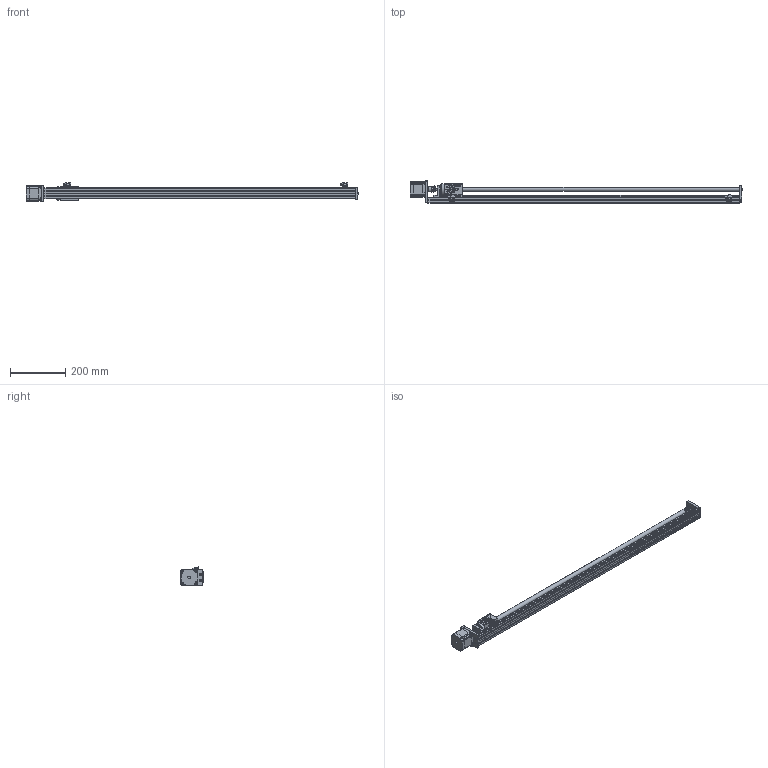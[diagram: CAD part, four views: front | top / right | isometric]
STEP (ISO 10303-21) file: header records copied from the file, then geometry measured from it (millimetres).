
FILE_DESCRIPTION (( 'STEP AP203' ), '1' );
FILE_NAME ('FSK40-C7L10-E1000-BC-B5756.STEP', '2024-10-29T07:06:42', ( 'Windows 蚚誧' ), ( '' ), 'SwSTEP 2.0', 'SolidWorks 2020', '' );
FILE_SCHEMA (( 'CONFIG_CONTROL_DESIGN' ));
Length unit declared in the file: millimetre
Products named in the file (25): 复件 57底盖1^复件 步进57_FSK40-C7L10-E-BC-B57（V1压铸滑座A2版本）; 复件 57机身^复件 步进57_FSK40-C7L10-E-BC-B57（V1压铸滑座A2版本）; ｸｴｼ GBｨuT 70.1[ﾄﾚﾁﾇﾔｲﾖｷﾂﾝｶ､M5｡ﾁ18]-A2-70^FSK40-C7L10-E-BC-B57｣ｨV1ﾑｹﾖｻｬﾗ2ｰ豎ｾ｣ｩ_M5｡ﾁ16; 复件 M4方螺母^FSK40-C7L10-E-BC-B57（V1压铸滑座A2版本）; 复件 滑座FSK40-V2^FSK40-C7L10-E-BC-B57（V1压铸滑座A2版本）; 复件 后轴承板FSK40-V2^FSK40-C7L10-E-BC-B57（V1压铸滑座A2版本）_SFS16; ｸｴｼ GBｨuT 70.1[ﾄﾚﾁﾇﾔｲﾖｷﾂﾝｶ､M3｡ﾁ35]-A2-70^FSK40-C7L10-E-BC-B57｣ｨV1ﾑｹﾖｻｬﾗ2ｰ豎ｾ｣ｩ_M3｡ﾁ20; 复件 感应片 FSK40-GYP-V2^FSK40-C7L10-E-BC-B57（V1压铸滑座A2版本）; ｸｴｼ GBｨuT 70.1[ﾄﾚﾁﾇﾔｲﾖｷﾂﾝｶ､M4｡ﾁ14]-A2-70^FSK40-C7L10-E-BC-B57｣ｨV1ﾑｹﾖｻｬﾗ2ｰ豎ｾ｣ｩ_M4｡ﾁ12; 复件 零件3^FSK40-C7L10-E-BC-B57（V1压铸滑座A2版本）; 复件 丝杆SFS16^FSK40-C7L10-E-BC-B57（V1压铸滑座A2版本）_SFS16; 复件 导轨MGN12R^FSK40-C7L10-E-BC-B57（V1压铸滑座A2版本）; hexagon socket button head screws gb_GB_SOCKET_TYPE7 M3X6-N; 复件 L型固定件FSK40^FSK40-C7L10-E-BC-B57（V1压铸滑座A2版本）_SFS16; 复件 GB╱T 894[轴用弹性挡圈8]^FSK40-C7L10-E-BC-B57（V1压铸滑座A2版本）_8; 复件 复件 57上盖^复件 步进57_FSK40-C7L10-E-BC-B57（V1压铸滑座A2版本）; ｸｴｼ GBｨuT 70.1[ﾄﾚﾁﾇﾔｲﾖｷﾂﾝｶ､M4｡ﾁ16]-A2-70^FSK40-C7L10-E-BC-B57｣ｨV1ﾑｹﾖｻｬﾗ2ｰ豎ｾ｣ｩ_M4｡ﾁ16; 复件 底座FSK40^FSK40-C7L10-E-BC-B57（V1压铸滑座A2版本）; 复件 步进57^FSK40-C7L10-E-BC-B57（V1压铸滑座A2版本）; 复件 螺丝头^复件 步进57_FSK40-C7L10-E-BC-B57（V1压铸滑座A2版本）; 复件 梅花联轴器FLK8-2025(FLK8-2025-6.3508)^FSK40-C7L10-E-BC-B57（V1压铸滑座A2版本）_梅花联轴器FLK8-2025-0808; 复件 电机板FSK40^FSK40-C7L10-E-BC-B57（V1压铸滑座A2版本）_步进57-SFS16; FSK40-C7L10-E1000-BC-B5756; 复件 GB╱T 70.1[内六角圆柱头螺钉M4×10]^FSK40-C7L10-E-BC-B57（V1压铸滑座A2版本）_M4×10; 复件 GB╱T 276[深沟球轴承608-2Z]^FSK40-C7L10-E-BC-B57（V1压铸滑座A2版本）_608-2Z
Assembly tree (46 placements, depth 3):
  FSK40-C7L10-E1000-BC-B5756
    复件 底座FSK40^FSK40-C7L10-E-BC-B57（V1压铸滑座A2版本）
    复件 丝杆SFS16^FSK40-C7L10-E-BC-B57（V1压铸滑座A2版本）_SFS16
    复件 导轨MGN12R^FSK40-C7L10-E-BC-B57（V1压铸滑座A2版本）
    复件 L型固定件FSK40^FSK40-C7L10-E-BC-B57（V1压铸滑座A2版本）_SFS16
    复件 电机板FSK40^FSK40-C7L10-E-BC-B57（V1压铸滑座A2版本）_步进57-SFS16
    复件 梅花联轴器FLK8-2025(FLK8-2025-6.3508)^FSK40-C7L10-E-BC-B57（V1压铸滑座A2版本）_梅花联轴器FLK8-2025-0808
    复件 步进57^FSK40-C7L10-E-BC-B57（V1压铸滑座A2版本）
      复件 复件 57上盖^复件 步进57_FSK40-C7L10-E-BC-B57（V1压铸滑座A2版本）
      复件 57底盖1^复件 步进57_FSK40-C7L10-E-BC-B57（V1压铸滑座A2版本）
      复件 螺丝头^复件 步进57_FSK40-C7L10-E-BC-B57（V1压铸滑座A2版本）  x4
      复件 57机身^复件 步进57_FSK40-C7L10-E-BC-B57（V1压铸滑座A2版本）
    复件 滑座FSK40-V2^FSK40-C7L10-E-BC-B57（V1压铸滑座A2版本）
    复件 后轴承板FSK40-V2^FSK40-C7L10-E-BC-B57（V1压铸滑座A2版本）_SFS16
    复件 GB╱T 276[深沟球轴承608-2Z]^FSK40-C7L10-E-BC-B57（V1压铸滑座A2版本）_608-2Z  x2
    复件 GB╱T 894[轴用弹性挡圈8]^FSK40-C7L10-E-BC-B57（V1压铸滑座A2版本）_8
    复件 M4方螺母^FSK40-C7L10-E-BC-B57（V1压铸滑座A2版本）  x2
    复件 GB╱T 70.1[内六角圆柱头螺钉M4×10]^FSK40-C7L10-E-BC-B57（V1压铸滑座A2版本）_M4×10  x2
    ｸｴｼ GBｨuT 70.1[ﾄﾚﾁﾇﾔｲﾖｷﾂﾝｶ､M4｡ﾁ16]-A2-70^FSK40-C7L10-E-BC-B57｣ｨV1ﾑｹﾖｻｬﾗ2ｰ豎ｾ｣ｩ_M4｡ﾁ16  x4
    ｸｴｼ GBｨuT 70.1[ﾄﾚﾁﾇﾔｲﾖｷﾂﾝｶ､M4｡ﾁ14]-A2-70^FSK40-C7L10-E-BC-B57｣ｨV1ﾑｹﾖｻｬﾗ2ｰ豎ｾ｣ｩ_M4｡ﾁ12  x4
    ｸｴｼ GBｨuT 70.1[ﾄﾚﾁﾇﾔｲﾖｷﾂﾝｶ､M3｡ﾁ35]-A2-70^FSK40-C7L10-E-BC-B57｣ｨV1ﾑｹﾖｻｬﾗ2ｰ豎ｾ｣ｩ_M3｡ﾁ20  x4
    ｸｴｼ GBｨuT 70.1[ﾄﾚﾁﾇﾔｲﾖｷﾂﾝｶ､M5｡ﾁ18]-A2-70^FSK40-C7L10-E-BC-B57｣ｨV1ﾑｹﾖｻｬﾗ2ｰ豎ｾ｣ｩ_M5｡ﾁ16  x6
    复件 感应片 FSK40-GYP-V2^FSK40-C7L10-E-BC-B57（V1压铸滑座A2版本）
    复件 零件3^FSK40-C7L10-E-BC-B57（V1压铸滑座A2版本）  x2
    hexagon socket button head screws gb_GB_SOCKET_TYPE7 M3X6-N  x2
Bounding box: 1199 x 80 x 67.5 mm (x, y, z)
Volume: 1051237.3 mm3; surface area: 639738.2 mm2
Topology: 77 solids, 77 shells, 3732 faces, 9972 edges, 6396 vertices
Faces by surface type: plane 2020, cylinder 1023, cone 237, torus 186, bspline 146, sphere 120
Entity records: 88043 total; most frequent: CARTESIAN_POINT 22860, ORIENTED_EDGE 13204, DIRECTION 12556, EDGE_CURVE 6602, AXIS2_PLACEMENT_3D 4448, VERTEX_POINT 4260, VECTOR 3660, LINE 3660
